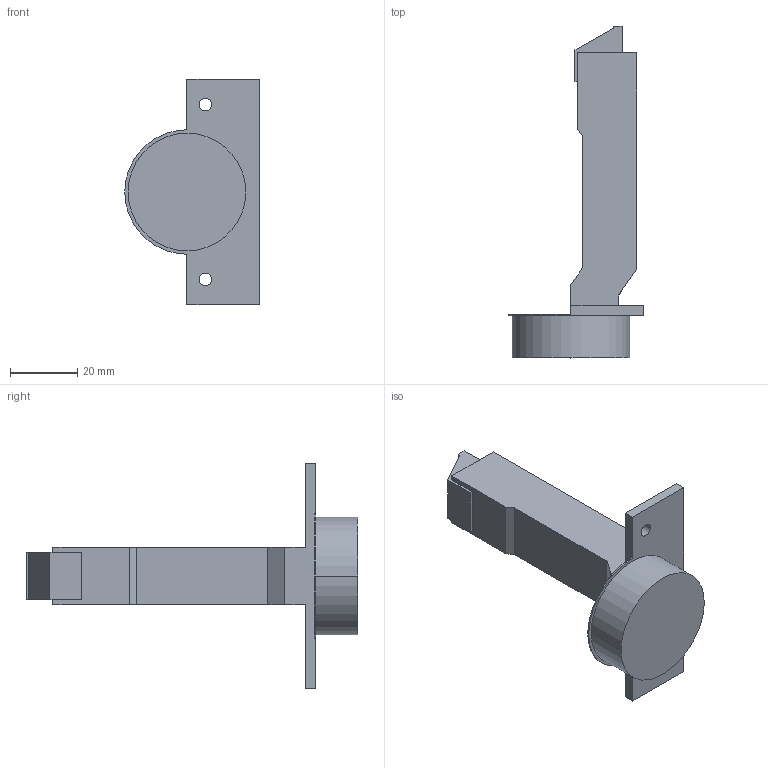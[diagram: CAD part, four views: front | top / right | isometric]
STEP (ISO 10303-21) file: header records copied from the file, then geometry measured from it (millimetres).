
FILE_DESCRIPTION (( 'STEP AP214' ), '1' );
FILE_NAME ('Scharnier TT Click-on 110° H_BB, K00.step', '2018-09-12T09:10:19', ( '' ), ( '' ), 'SwSTEP 2.0', 'SolidWorks 2017', '' );
FILE_SCHEMA (( 'AUTOMOTIVE_DESIGN' ));
Length unit declared in the file: millimetre
Products named in the file (1): Scharnier TT Click-on 110° H_BB, K00
Bounding box: 40 x 98.7 x 67 mm (x, y, z)
Volume: 38412.7 mm3; surface area: 11439.5 mm2
Topology: 1 solids, 1 shells, 44 faces, 114 edges, 76 vertices
Faces by surface type: plane 31, cylinder 13
Entity records: 1386 total; most frequent: CARTESIAN_POINT 235, DIRECTION 230, ORIENTED_EDGE 228, EDGE_CURVE 114, LINE 88, VECTOR 88, VERTEX_POINT 76, AXIS2_PLACEMENT_3D 71
